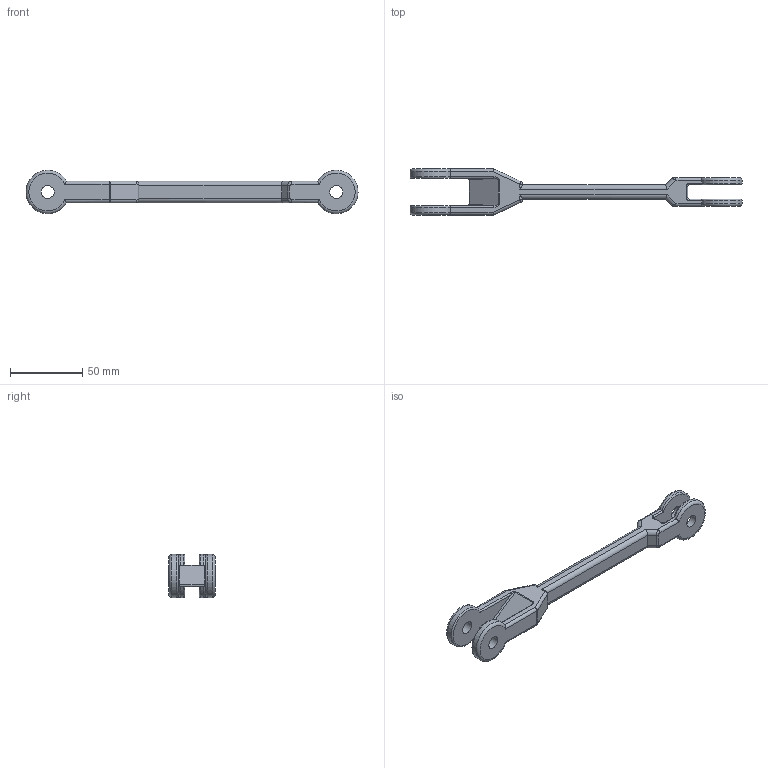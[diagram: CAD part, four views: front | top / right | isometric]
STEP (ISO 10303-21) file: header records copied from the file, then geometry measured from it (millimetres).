
FILE_DESCRIPTION(/* description */ ('STEP AP242 Edition 2','CAx-IF Rec.Pracs.---Representation and Presentation of Product Manufacturing Information (PMI)---4.0---2014-10-13','CAx-IF Rec.Pracs.---3D Tessellated Geometry---0.4---2014-09-14','2;1','CAx-IF Rec.Pracs.---User Defined Attributes---1.5---2016-08-15'),/* implementation_level */ '2;1');
FILE_NAME(/* name */ 'Tarok - Total Assemply - Leg Rod',/* time_stamp */ '2026-05-23T09:32:38Z',/* author */ (''),/* organization */ (''),/* preprocessor_version */ 'ST-DEVELOPER v20',/* originating_system */ 'ONSHAPE BY PTC INC, 1.215',/* authorisation */ ' ');
FILE_SCHEMA (('AP242_MANAGED_MODEL_BASED_3D_ENGINEERING_MIM_LF { 1 0 10303 442 3 1 4 }'));
Length unit declared in the file: metre
Products named in the file (1): Leg Rod
Bounding box: 230 x 32 x 30 mm (x, y, z)
Volume: 48238.8 mm3; surface area: 17810 mm2
Topology: 1 solids, 1 shells, 102 faces, 242 edges, 134 vertices
Faces by surface type: cylinder 53, plane 19, bspline 12, torus 10, sphere 8
Full cylindrical faces by diameter (mm): 9 x4
Entity records: 3030 total; most frequent: CARTESIAN_POINT 767, DIRECTION 482, ORIENTED_EDGE 456, EDGE_CURVE 228, AXIS2_PLACEMENT_3D 191, VERTEX_POINT 132, EDGE_LOOP 114, FACE_BOUND 114
